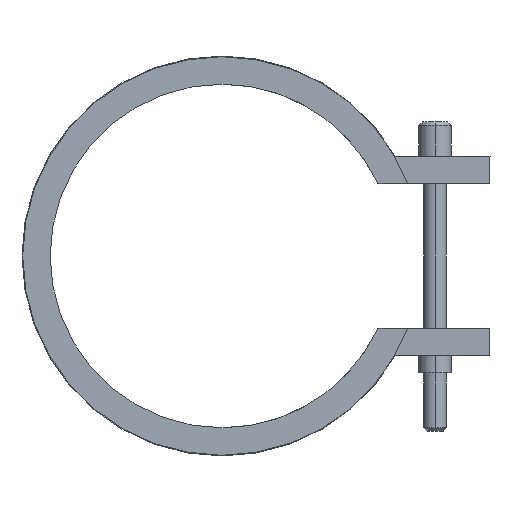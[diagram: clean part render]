
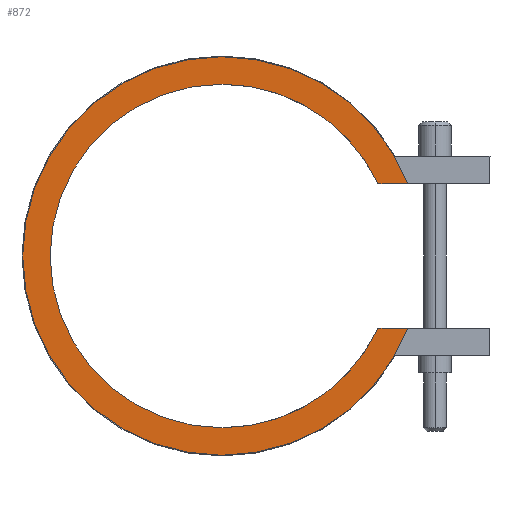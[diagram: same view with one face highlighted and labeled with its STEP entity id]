
A CAD part, left-side view. The second image highlights one B-rep face of the part: STEP entity #872.
In plain terms, the highlighted planar face has unit normal (-1, 0, 0).
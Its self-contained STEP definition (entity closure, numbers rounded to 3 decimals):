
#410=CARTESIAN_POINT('Vertex',(-25.,-22.688,-10.5)) ;
#413=CARTESIAN_POINT('Line Origine',(-25.,-24.86,-10.5)) ;
#417=CARTESIAN_POINT('Vertex',(-25.,-27.032,-10.5)) ;
#463=CARTESIAN_POINT('Vertex',(-25.,0.,-29.)) ;
#466=CARTESIAN_POINT('Axis2P3D Location',(-25.,0.,0.)) ;
#487=CARTESIAN_POINT('Vertex',(-25.,0.,29.)) ;
#490=CARTESIAN_POINT('Axis2P3D Location',(-25.,0.,0.)) ;
#502=CARTESIAN_POINT('Axis2P3D Location',(-25.,0.,0.)) ;
#506=CARTESIAN_POINT('Vertex',(-25.,-27.032,10.5)) ;
#526=CARTESIAN_POINT('Line Origine',(-25.,-24.86,10.5)) ;
#530=CARTESIAN_POINT('Vertex',(-25.,-22.688,10.5)) ;
#818=CARTESIAN_POINT('Axis2P3D Location',(-25.,0.,0.)) ;
#822=CARTESIAN_POINT('Vertex',(-25.,0.,-25.)) ;
#845=CARTESIAN_POINT('Axis2P3D Location',(-25.,0.,0.)) ;
#850=CARTESIAN_POINT('Axis2P3D Location',(-25.,0.,0.)) ;
#854=CARTESIAN_POINT('Vertex',(-25.,0.,25.)) ;
#857=CARTESIAN_POINT('Axis2P3D Location',(-25.,0.,0.)) ;
#414=DIRECTION('Vector Direction',(0.,1.,0.)) ;
#467=DIRECTION('Axis2P3D Direction',(1.,0.,-0.)) ;
#491=DIRECTION('Axis2P3D Direction',(1.,0.,-0.)) ;
#503=DIRECTION('Axis2P3D Direction',(1.,0.,-0.)) ;
#527=DIRECTION('Vector Direction',(0.,-1.,0.)) ;
#819=DIRECTION('Axis2P3D Direction',(1.,0.,-0.)) ;
#846=DIRECTION('Axis2P3D Direction',(1.,0.,0.)) ;
#847=DIRECTION('Axis2P3D XDirection',(0.,0.,-1.)) ;
#851=DIRECTION('Axis2P3D Direction',(1.,0.,0.)) ;
#858=DIRECTION('Axis2P3D Direction',(1.,0.,0.)) ;
#468=AXIS2_PLACEMENT_3D('Circle Axis2P3D',#466,#467,$) ;
#492=AXIS2_PLACEMENT_3D('Circle Axis2P3D',#490,#491,$) ;
#504=AXIS2_PLACEMENT_3D('Circle Axis2P3D',#502,#503,$) ;
#820=AXIS2_PLACEMENT_3D('Circle Axis2P3D',#818,#819,$) ;
#848=AXIS2_PLACEMENT_3D('Plane Axis2P3D',#845,#846,#847) ;
#852=AXIS2_PLACEMENT_3D('Circle Axis2P3D',#850,#851,$) ;
#859=AXIS2_PLACEMENT_3D('Circle Axis2P3D',#857,#858,$) ;
#863=ORIENTED_EDGE('',*,*,#419,.T.) ;
#864=ORIENTED_EDGE('',*,*,#824,.T.) ;
#865=ORIENTED_EDGE('',*,*,#856,.T.) ;
#866=ORIENTED_EDGE('',*,*,#861,.T.) ;
#867=ORIENTED_EDGE('',*,*,#532,.T.) ;
#868=ORIENTED_EDGE('',*,*,#508,.F.) ;
#869=ORIENTED_EDGE('',*,*,#494,.F.) ;
#870=ORIENTED_EDGE('',*,*,#470,.F.) ;
#415=VECTOR('Line Direction',#414,1.) ;
#528=VECTOR('Line Direction',#527,1.) ;
#872=ADVANCED_FACE('14050050',(#871),#849,.F.) ;
#469=CIRCLE('generated circle',#468,29.) ;
#493=CIRCLE('generated circle',#492,29.) ;
#505=CIRCLE('generated circle',#504,29.) ;
#821=CIRCLE('generated circle',#820,25.) ;
#853=CIRCLE('generated circle',#852,25.) ;
#860=CIRCLE('generated circle',#859,25.) ;
#419=EDGE_CURVE('',#418,#411,#416,.T.) ;
#470=EDGE_CURVE('',#418,#464,#469,.T.) ;
#494=EDGE_CURVE('',#464,#488,#493,.T.) ;
#508=EDGE_CURVE('',#488,#507,#505,.T.) ;
#532=EDGE_CURVE('',#531,#507,#529,.T.) ;
#824=EDGE_CURVE('',#411,#823,#821,.T.) ;
#856=EDGE_CURVE('',#823,#855,#853,.T.) ;
#861=EDGE_CURVE('',#855,#531,#860,.T.) ;
#862=EDGE_LOOP('',(#863,#864,#865,#866,#867,#868,#869,#870)) ;
#871=FACE_OUTER_BOUND('',#862,.T.) ;
#416=LINE('Line',#413,#415) ;
#529=LINE('Line',#526,#528) ;
#849=PLANE('Plane',#848) ;
#411=VERTEX_POINT('',#410) ;
#418=VERTEX_POINT('',#417) ;
#464=VERTEX_POINT('',#463) ;
#488=VERTEX_POINT('',#487) ;
#507=VERTEX_POINT('',#506) ;
#531=VERTEX_POINT('',#530) ;
#823=VERTEX_POINT('',#822) ;
#855=VERTEX_POINT('',#854) ;
